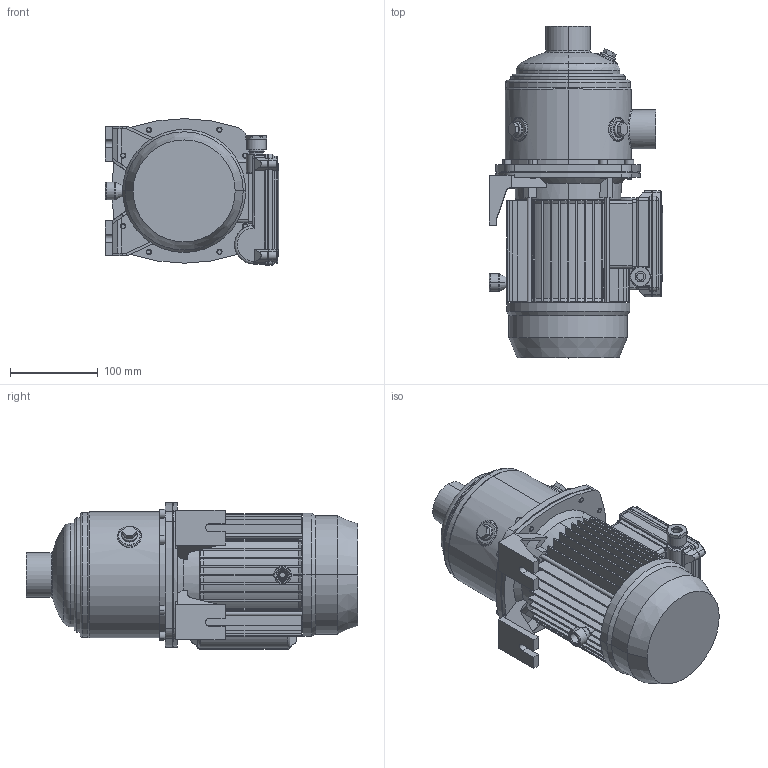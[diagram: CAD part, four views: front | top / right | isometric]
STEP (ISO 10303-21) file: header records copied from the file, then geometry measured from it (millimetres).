
FILE_DESCRIPTION((''),'2;1');
FILE_NAME('MATRIX_10-2T_0_75_M_ASM','2017-05-23T',('rosa'),('"Ebara Pumps Europe +39.444.706811"'),'PRO/ENGINEER BY PARAMETRIC TECHNOLOGY CORPORATION, 2012130','PRO/ENGINEER BY PARAMETRIC TECHNOLOGY CORPORATION, 2012130','');
FILE_SCHEMA(('AUTOMOTIVE_DESIGN { 1 0 10303 214 1 1 1 1 }'));
Length unit declared in the file: millimetre
Products named in the file (6): CORPO_POMPA_MATRIX_10-2_3; SUPPORTO_MATRIX_MEC_71; MEC_71_PACCO_90_MONOFASE; 72228; COPRIMORS_MEC63-71_MONOFASE_M4; MATRIX_10-2T_0_75_M_ASM
Assembly tree (5 placements, depth 2):
  MATRIX_10-2T_0_75_M_ASM
    CORPO_POMPA_MATRIX_10-2_3
    SUPPORTO_MATRIX_MEC_71
    MEC_71_PACCO_90_MONOFASE
    72228
    COPRIMORS_MEC63-71_MONOFASE_M4
Bounding box: 198 x 378.8 x 167.5 mm (x, y, z)
Volume: 4277570.8 mm3; surface area: 513028.4 mm2
Topology: 5 solids, 5 shells, 938 faces, 2262 edges, 1388 vertices
Faces by surface type: plane 455, cylinder 277, cone 126, torus 39, bspline 31, sphere 10
Entity records: 37449 total; most frequent: CARTESIAN_POINT 7954, DIRECTION 4686, ORIENTED_EDGE 4524, EDGE_CURVE 2262, PRESENTATION_STYLE_ASSIGNMENT 2216, STYLED_ITEM 2216, CURVE_STYLE 2212, AXIS2_PLACEMENT_3D 1777
